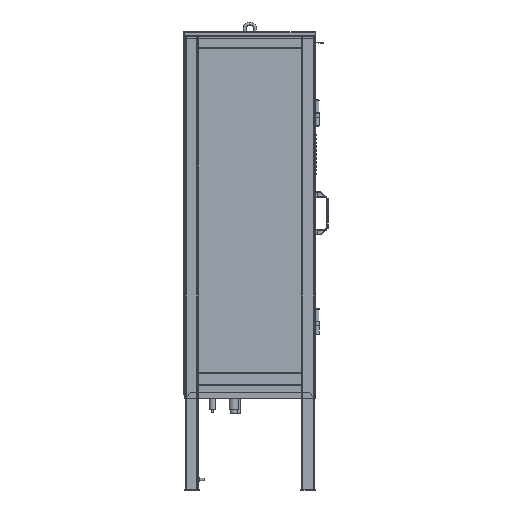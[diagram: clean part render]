
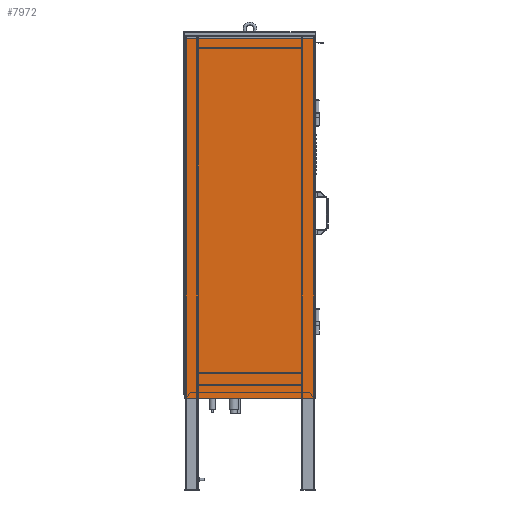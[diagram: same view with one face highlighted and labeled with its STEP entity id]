
A CAD part, left-side view. The second image highlights one B-rep face of the part: STEP entity #7972.
In plain terms, the highlighted planar face has unit normal (-1, 0, 0).
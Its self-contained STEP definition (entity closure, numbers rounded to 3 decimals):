
#7972=ADVANCED_FACE('',(#23259),#23261,.T.);
#23259=FACE_BOUND('',#23260,.T.);
#23260=EDGE_LOOP('',(#31337,#31338,#31339,#31340));
#23261=PLANE('',#23262);
#23262=AXIS2_PLACEMENT_3D('',#23263,#23264,#23265);
#23263=CARTESIAN_POINT('',(-675.8,224.,-676.5));
#23264=DIRECTION('',(-1.,0.,0.));
#23265=DIRECTION('',(0.,-1.,0.));
#31337=ORIENTED_EDGE('',*,*,#36133,.T.);
#31338=ORIENTED_EDGE('',*,*,#36132,.T.);
#31339=ORIENTED_EDGE('',*,*,#36160,.T.);
#31340=ORIENTED_EDGE('',*,*,#36144,.T.);
#36132=EDGE_CURVE('',#41167,#41187,#41189,.T.);
#36133=EDGE_CURVE('',#41178,#41167,#41190,.T.);
#36144=EDGE_CURVE('',#41207,#41178,#41208,.T.);
#36160=EDGE_CURVE('',#41187,#41207,#41234,.T.);
#41167=VERTEX_POINT('',#53850);
#41178=VERTEX_POINT('',#53871);
#41187=VERTEX_POINT('',#53891);
#41189=LINE('',#53896,#53897);
#41190=LINE('',#53899,#53900);
#41207=VERTEX_POINT('',#53940);
#41208=LINE('',#53941,#53942);
#41234=LINE('',#54005,#54006);
#53850=CARTESIAN_POINT('',(-675.8,473.5,13.892));
#53871=CARTESIAN_POINT('',(-675.8,-26.,13.892));
#53891=CARTESIAN_POINT('',(-675.8,473.5,-1373.5));
#53896=CARTESIAN_POINT('',(-675.8,473.5,13.892));
#53897=VECTOR('',#53898,1.);
#53898=DIRECTION('',(0.,0.,-1.));
#53899=CARTESIAN_POINT('',(-675.8,-26.,13.892));
#53900=VECTOR('',#53901,1.);
#53901=DIRECTION('',(0.,1.,0.));
#53940=CARTESIAN_POINT('',(-675.8,-26.,-1373.5));
#53941=CARTESIAN_POINT('',(-675.8,-26.,-1373.5));
#53942=VECTOR('',#53943,1.);
#53943=DIRECTION('',(0.,0.,1.));
#54005=CARTESIAN_POINT('',(-675.8,473.5,-1373.5));
#54006=VECTOR('',#54007,1.);
#54007=DIRECTION('',(0.,-1.,0.));
